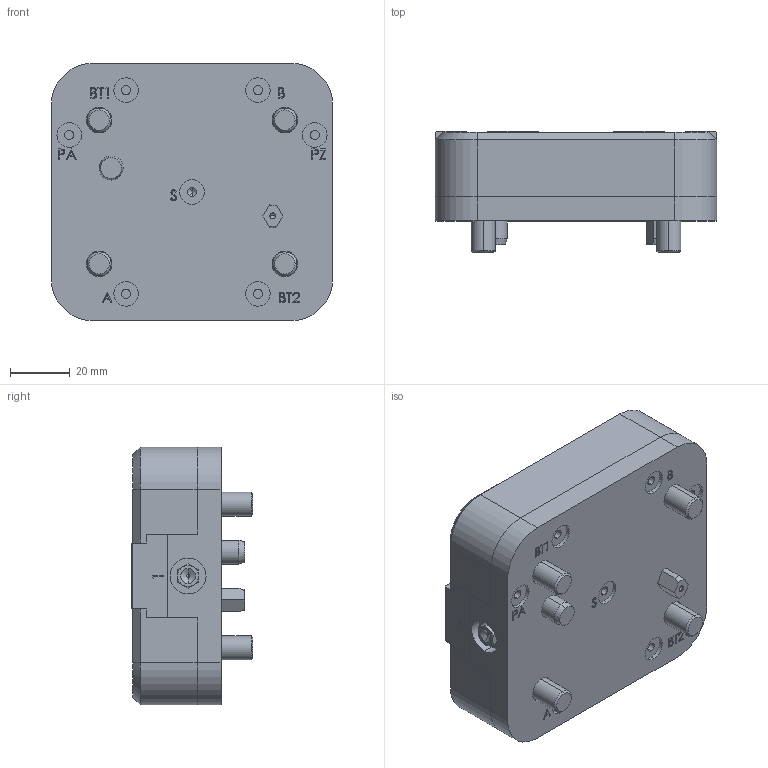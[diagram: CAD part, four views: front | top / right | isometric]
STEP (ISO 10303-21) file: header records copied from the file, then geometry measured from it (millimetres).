
FILE_DESCRIPTION (( 'STEP AP214' ), '1' );
FILE_NAME ('IFCC30-001.STEP', '2020-05-11T07:59:50', ( '' ), ( '' ), 'SwSTEP 2.0', 'SolidWorks 2014', '' );
FILE_SCHEMA (( 'AUTOMOTIVE_DESIGN' ));
Length unit declared in the file: millimetre
Products named in the file (10): Positionsstift-Rund_03120_05; 97942_1106100; 2020001-mod; 2022006-mod; 2086001-mod; 2028001-mod; 2028002-mod; IFCC30-001; DIN 7991 - Neu_DIN 7991 - M8 x 40; Positionsstift-Schwert_03140_05
Assembly tree (14 placements, depth 2):
  IFCC30-001
    2028002-mod
    2028001-mod
    2086001-mod
    2022006-mod  x2
    2020001-mod
    97942_1106100  x2
    Positionsstift-Rund_03120_05
    Positionsstift-Schwert_03140_05
    DIN 7991 - Neu_DIN 7991 - M8 x 40  x4
Bounding box: 94 x 40.62 x 86 mm (x, y, z)
Volume: 227802.4 mm3; surface area: 65979.4 mm2
Topology: 14 solids, 14 shells, 715 faces, 1735 edges, 1067 vertices
Faces by surface type: plane 315, cylinder 164, cone 158, bspline 70, torus 8
Entity records: 21910 total; most frequent: CARTESIAN_POINT 7010, ORIENTED_EDGE 2828, DIRECTION 2704, EDGE_CURVE 1414, VECTOR 916, LINE 916, VERTEX_POINT 908, AXIS2_PLACEMENT_3D 894
